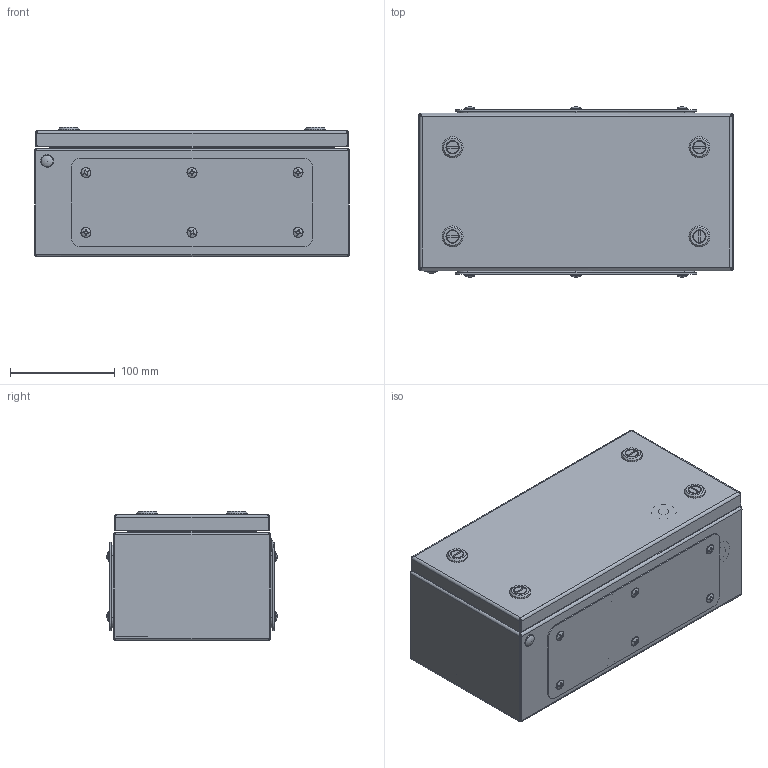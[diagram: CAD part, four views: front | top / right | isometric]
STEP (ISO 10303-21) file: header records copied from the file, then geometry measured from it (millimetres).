
FILE_DESCRIPTION (( 'STEP AP214' ), '1' );
FILE_NAME ('BCS 15.30.12-PKV Êîðîáêà.STEP', '2023-03-14T05:30:08', ( '' ), ( '' ), 'SwSTEP 2.0', 'SolidWorks 2019', '' );
FILE_SCHEMA (( 'AUTOMOTIVE_DESIGN' ));
Length unit declared in the file: millimetre
Products named in the file (1): BCS 15.30.12-PKV Êîðîáêà
Bounding box: 300 x 162.04 x 123 mm (x, y, z)
Volume: 401262.6 mm3; surface area: 592762.3 mm2
Topology: 48 solids, 48 shells, 2367 faces, 5976 edges, 3778 vertices
Faces by surface type: plane 1347, cylinder 629, cone 160, bspline 110, torus 80, sphere 41
Entity records: 110703 total; most frequent: CARTESIAN_POINT 27643, ORIENTED_EDGE 11922, DIRECTION 11509, EDGE_CURVE 5961, AXIS2_PLACEMENT_3D 3970, VERTEX_POINT 3776, VECTOR 3569, LINE 3569
